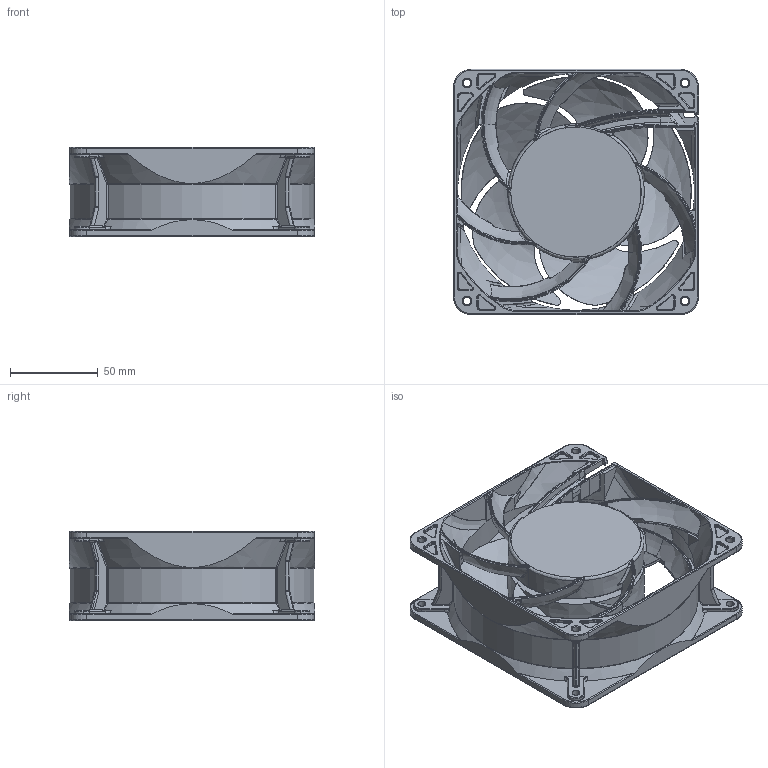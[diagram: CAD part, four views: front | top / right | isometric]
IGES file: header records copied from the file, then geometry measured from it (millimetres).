
Start section: SolidWorks IGES file using analytic representation for surfaces
Bounding box: 140 x 140 x 51 mm (x, y, z)
Surface area: 115617.2 mm2 (no closed solid volume)
Topology: 0 solids, 0 shells, 1344 faces, 12336 edges, 12262 vertices
Faces by surface type: bspline 849, revolution 495
